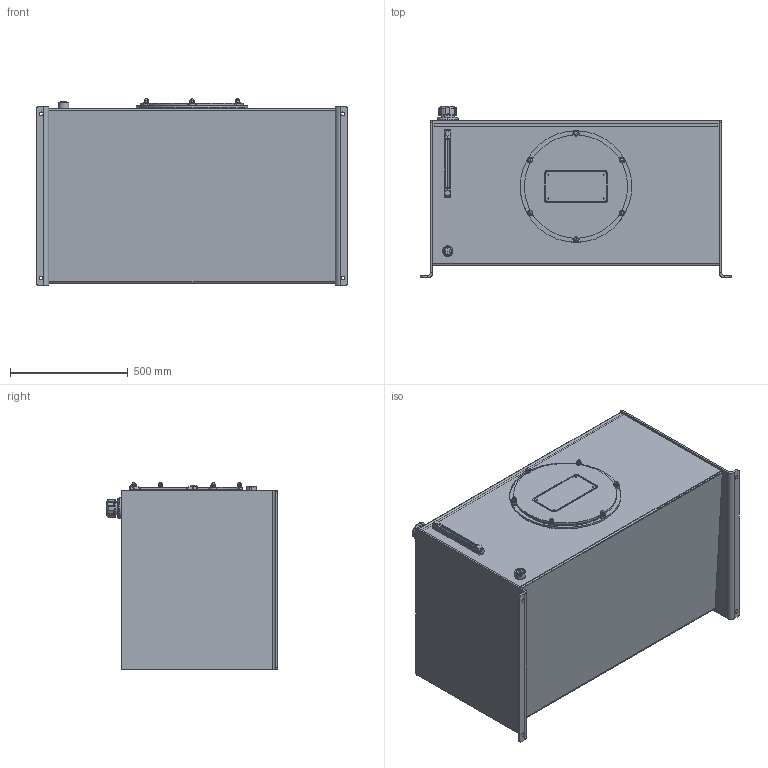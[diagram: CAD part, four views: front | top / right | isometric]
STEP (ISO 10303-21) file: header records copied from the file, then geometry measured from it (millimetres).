
FILE_DESCRIPTION (( 'STEP AP214' ), '1' );
FILE_NAME ('RDIN120-CFA.STEP', '2018-06-08T17:35:15', ( 'Windows User' ), ( '' ), 'SwSTEP 2.0', 'SolidWorks 2017', '' );
FILE_SCHEMA (( 'AUTOMOTIVE_DESIGN' ));
Length unit declared in the file: inch
Products named in the file (21): FB-F008_FB-F-008; RHJ-PLUG-200; RDIN120-CFA-LEND; REC-M475C; QSTSBUR00080008; S16; FB-C-H_FB-H008W; WFZM010; RDIN120-CFA-REND; FB-H008W; 8162-010-2_4534K46; Weld Riser; RHJ-PLUG-016; PLLG-10T; FB-S-W; BHS8100-15350; RDIN120-CFA-TOP; RDIN120-CFA; REC-M475K; RDIN120-CFA-BODY_RJIC020-BODY; NAC100-15
Assembly tree (36 placements, depth 3):
  RHJ-PLUG-200
  RHJ-PLUG-016
  RDIN120-CFA
    RDIN120-CFA-BODY_RJIC020-BODY
    RDIN120-CFA-LEND
    RDIN120-CFA-REND
    RDIN120-CFA-TOP
    QSTSBUR00080008  x4
    Weld Riser
    S16
    BHS8100-15350  x6
    FB-H008W
      FB-F008_FB-F-008
      FB-S-W
      FB-C-H_FB-H008W
    REC-M475K
      REC-M475C
      NAC100-15  x6
      WFZM010  x6
    PLLG-10T
    8162-010-2_4534K46
Bounding box: 1320.8 x 729.87 x 795.44 mm (x, y, z)
Volume: 27791660.1 mm3; surface area: 9193931.8 mm2
Topology: 37 solids, 37 shells, 1228 faces, 2875 edges, 1707 vertices
Faces by surface type: cylinder 413, plane 383, cone 190, bspline 100, torus 94, sphere 48
Entity records: 34650 total; most frequent: CARTESIAN_POINT 9606, DIRECTION 5014, ORIENTED_EDGE 4602, EDGE_CURVE 2301, AXIS2_PLACEMENT_3D 2047, VERTEX_POINT 1383, CIRCLE 1121, EDGE_LOOP 1108
